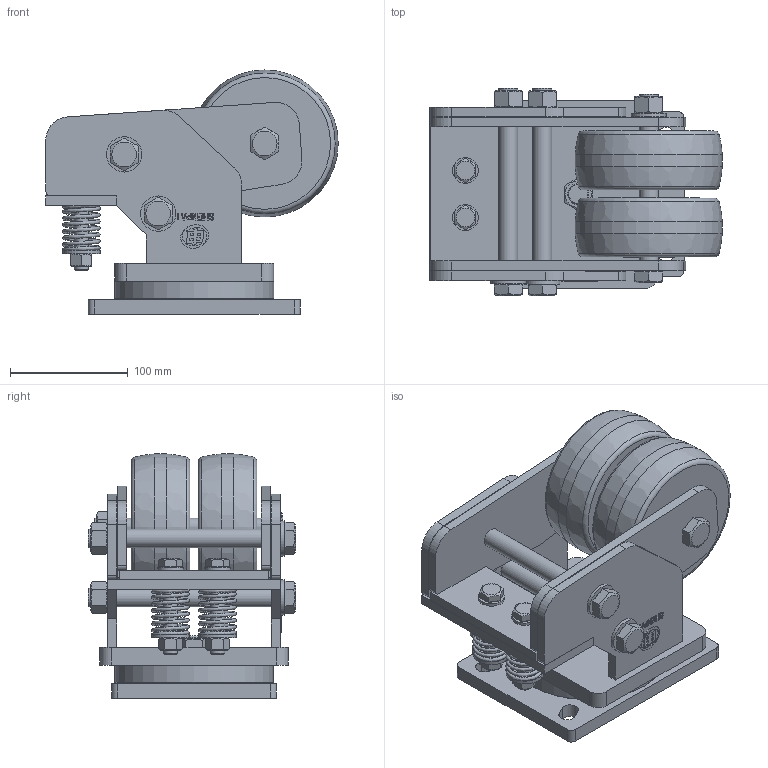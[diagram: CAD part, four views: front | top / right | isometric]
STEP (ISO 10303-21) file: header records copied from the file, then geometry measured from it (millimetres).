
FILE_DESCRIPTION(/* description */ (''),/* implementation_level */ '2;1');
FILE_NAME(/* name */ '45F03_5.stp',/* time_stamp */ '2023-04-27T08:48:41+08:00',/* author */ (''),/* organization */ (''),/* preprocessor_version */ 'ST-DEVELOPER v16',/* originating_system */ 'SIEMENS PLM Software NX 10.0',/* authorisation */ '');
FILE_SCHEMA (('AUTOMOTIVE_DESIGN { 1 0 10303 214 3 1 1 1 }'));
Length unit declared in the file: millimetre
Products named in the file (1): 5  双万定
Bounding box: 248.6 x 176.45 x 207.5 mm (x, y, z)
Volume: 2811846.6 mm3; surface area: 468889.2 mm2
Topology: 42 solids, 42 shells, 642 faces, 1624 edges, 1081 vertices
Faces by surface type: plane 426, cylinder 117, sphere 30, cone 27, bspline 26, torus 16
Full cylindrical faces by diameter (mm): 12 x2, 12.001 x2, 13 x4, 16 x3, 16.001 x3, 16.3 x8, 17 x7, 18 x2, 20 x1, 22 x2, 26 x2, 30 x5, 32 x2, 34 x1, 35 x1, 36 x1, 47 x1, 90 x1, 120 x1, 125 x2, 135 x1
Entity records: 25162 total; most frequent: CARTESIAN_POINT 10827, ORIENTED_EDGE 2788, DIRECTION 2662, EDGE_CURVE 1394, AXIS2_PLACEMENT_3D 1026, VERTEX_POINT 978, EDGE_LOOP 918, ADVANCED_FACE 642
